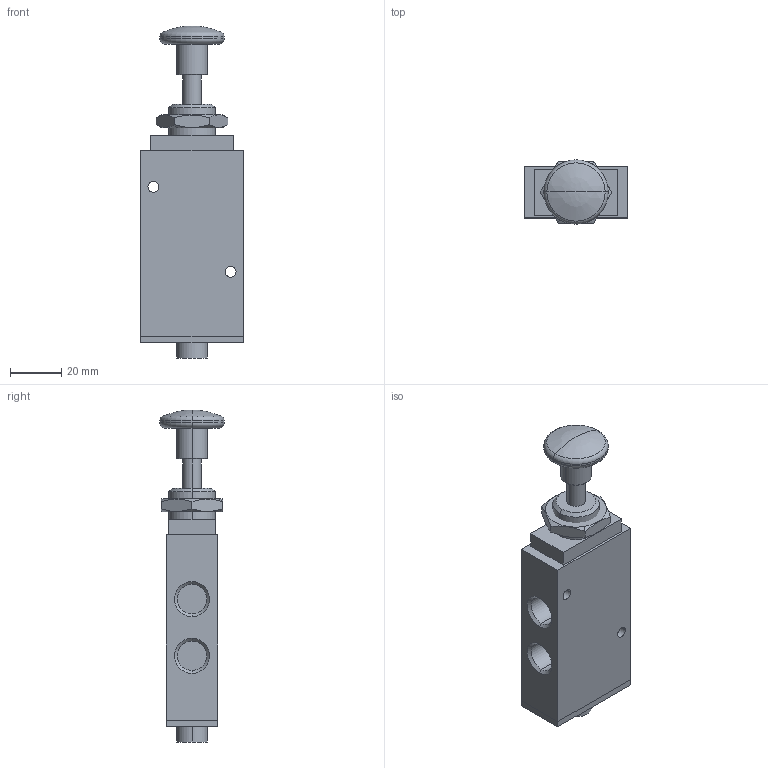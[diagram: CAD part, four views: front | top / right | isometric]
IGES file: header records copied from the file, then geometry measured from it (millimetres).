
Global section: file name: No Iges File Name specified; native system: AutoDesk Inventor R11.0; preprocessor: AutoDesk Inventor Iges Exporter R11.0; author: No Author specified; organization: No Organization specified; date: 20061219.113442; units: millimetre
Bounding box: 40 x 25 x 129 mm (x, y, z)
Volume: 66689 mm3; surface area: 17320.3 mm2
Topology: 2 solids, 2 shells, 88 faces, 192 edges, 117 vertices
Faces by surface type: bspline 33, plane 29, cylinder 10, revolution 6, cone 6, torus 4
